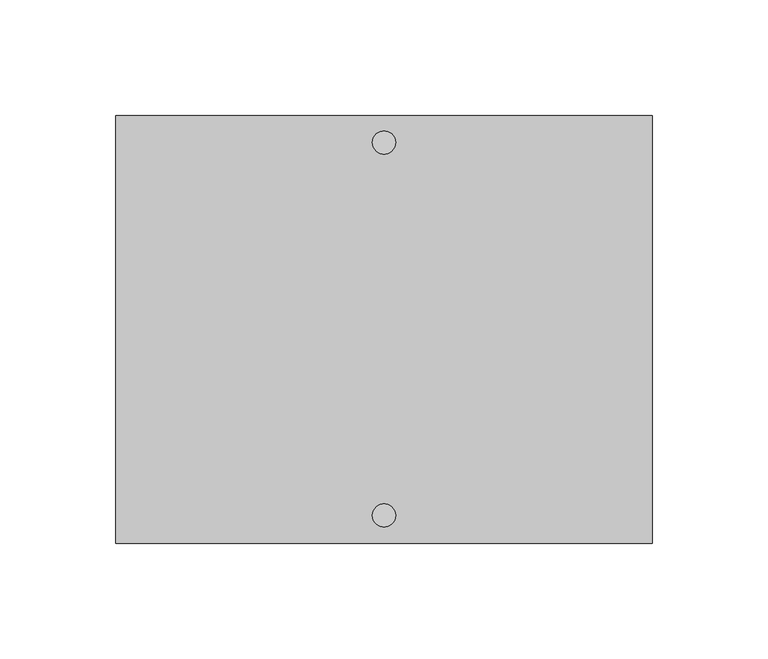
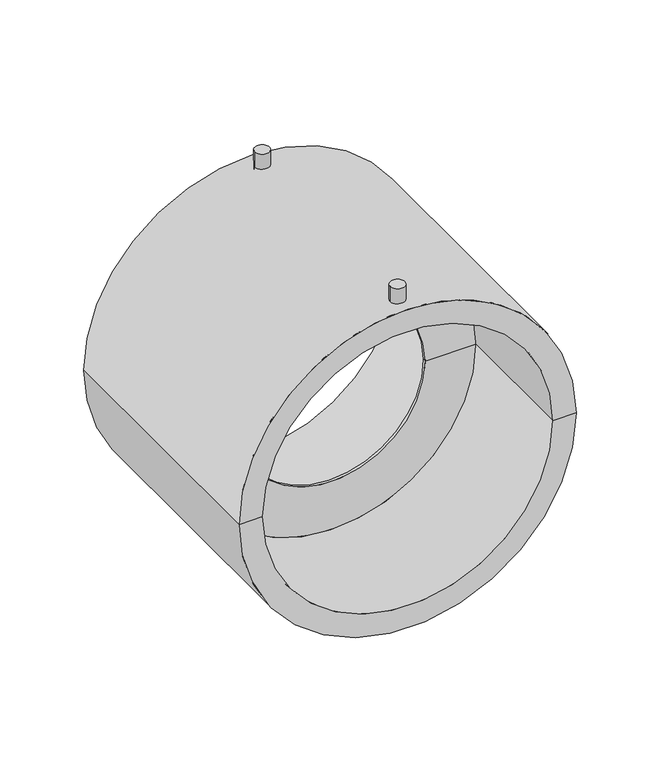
"""IFC4 building model written with IfcOpenShell, lengths in millimetres: pipe fitting geometry, NIRON RED electrico manguito : Estándar."""

from ifc_helpers import new_model, si_unit, point, frame, frame_2d, origin, place, context, project, spatial, polyline, circle_curve, trimmed, segment, composite_curve, outline, extrude, source, transform, mapped, element, save
from ifc_brep_helpers import plane_surface, cylinder_surface, revolved_surface, advanced_brep


def pipe_fitting_334d0e9d(model_context):
    return source(origin(), model_context, "Body", "SolidModel", [
        advanced_brep(
        [(116.0, 185.0, 0.0), (-116.0, 185.0, 0.0), (-100.0, 185.0, 0.0), (100.0, 185.0, 0.0), (116.0, 0.0, 0.0), (-116.0, 0.0, 0.0), (100.0, 0.0, 0.0), (-100.0, 0.0, 0.0), (100.0, 91.5, 0.0), (-100.0, 91.5, 0.0), (65.0, 91.5, 0.0), (-65.0, 91.5, 0.0), (65.0, 93.5, 0.0), (-65.0, 93.5, 0.0), (100.0, 93.5, 0.0), (-100.0, 93.5, 0.0)],
        [
            (0, 1, circle_curve(frame((0.0, 185.0, 0.0), z_axis=(0.0, 1.0, 0.0), x_axis=(-1.0, 0.0, 0.0)), 116.0)),
            (1, 2),
            (2, 3, circle_curve(frame((0.0, 185.0, 0.0), z_axis=(0.0, -1.0, 0.0), x_axis=(-1.0, 0.0, 0.0)), 100.0)),
            (3, 0),
            (1, 0, circle_curve(frame((0.0, 185.0, 0.0), z_axis=(0.0, 1.0, 0.0), x_axis=(-1.0, 0.0, 0.0)), 116.0)),
            (3, 2, circle_curve(frame((0.0, 185.0, 0.0), z_axis=(0.0, -1.0, 0.0), x_axis=(-1.0, 0.0, 0.0)), 100.0)),
            (4, 5, circle_curve(frame((0.0, 0.0, 0.0), z_axis=(0.0, 1.0, 0.0), x_axis=(-1.0, 0.0, 0.0)), 116.0)),
            (5, 1),
            (0, 4),
            (5, 4, circle_curve(frame((0.0, 0.0, 0.0), z_axis=(0.0, 1.0, 0.0), x_axis=(-1.0, 0.0, 0.0)), 116.0)),
            (6, 7, circle_curve(frame((0.0, 0.0, 0.0), z_axis=(0.0, 1.0, 0.0), x_axis=(-1.0, 0.0, 0.0)), 100.0)),
            (7, 5),
            (4, 6),
            (7, 6, circle_curve(frame((0.0, 0.0, 0.0), z_axis=(0.0, 1.0, 0.0), x_axis=(-1.0, 0.0, 0.0)), 100.0)),
            (8, 9, circle_curve(frame((0.0, 91.5, 0.0), z_axis=(0.0, 1.0, 0.0), x_axis=(-1.0, 0.0, 0.0)), 100.0)),
            (9, 7),
            (6, 8),
            (9, 8, circle_curve(frame((0.0, 91.5, 0.0), z_axis=(0.0, 1.0, 0.0), x_axis=(-1.0, 0.0, 0.0)), 100.0)),
            (10, 11, circle_curve(frame((0.0, 91.5, 0.0), z_axis=(0.0, 1.0, 0.0), x_axis=(-1.0, 0.0, 0.0)), 65.0)),
            (11, 9),
            (8, 10),
            (11, 10, circle_curve(frame((0.0, 91.5, 0.0), z_axis=(0.0, 1.0, 0.0), x_axis=(-1.0, 0.0, 0.0)), 65.0)),
            (12, 13, circle_curve(frame((0.0, 93.5, 0.0), z_axis=(0.0, 1.0, 0.0), x_axis=(-1.0, 0.0, 0.0)), 65.0)),
            (13, 11),
            (10, 12),
            (13, 12, circle_curve(frame((0.0, 93.5, 0.0), z_axis=(0.0, 1.0, 0.0), x_axis=(-1.0, 0.0, 0.0)), 65.0)),
            (14, 15, circle_curve(frame((0.0, 93.5, 0.0), z_axis=(0.0, 1.0, 0.0), x_axis=(-1.0, 0.0, 0.0)), 100.0)),
            (15, 13),
            (12, 14),
            (15, 14, circle_curve(frame((0.0, 93.5, 0.0), z_axis=(0.0, 1.0, 0.0), x_axis=(-1.0, 0.0, 0.0)), 100.0)),
            (2, 15),
            (14, 3),
        ],
        [
            plane_surface(frame((0.0, 185.0, 0.0), z_axis=(0.0, 1.0, 0.0), x_axis=(-1.0, 0.0, 0.0))),
            cylinder_surface(frame((0.0, 210.0, 0.0), z_axis=(0.0, -1.0, 0.0), x_axis=(-1.0, 0.0, 0.0)), 116.0),
            plane_surface(frame((0.0, 0.0, 0.0), z_axis=(0.0, -1.0, 0.0), x_axis=(-1.0, 0.0, 0.0))),
            revolved_surface(polyline([(-100.0, 0.0, 0.0), (-100.0, 91.5, 0.0)]), (0.0, 210.0, 0.0), (0.0, -1.0, 0.0)),
            plane_surface(frame((0.0, 91.5, 0.0), z_axis=(0.0, -1.0, 0.0), x_axis=(-1.0, 0.0, 0.0))),
            revolved_surface(polyline([(-65.0, 91.5, 0.0), (-65.0, 93.5, 0.0)]), (0.0, 210.0, 0.0), (0.0, -1.0, 0.0)),
            plane_surface(frame((0.0, 93.5, 0.0), z_axis=(0.0, 1.0, 0.0), x_axis=(-1.0, 0.0, 0.0))),
            revolved_surface(polyline([(-100.0, 93.5, 0.0), (-100.0, 185.0, 0.0)]), (0.0, 210.0, 0.0), (0.0, -1.0, 0.0)),
        ],
        [
            (0, [[1, 2, 3, 4]]),
            (0, [[5, -4, 6, -2]]),
            (1, [[7, 8, -1, 9]]),
            (1, [[10, -9, -5, -8]]),
            (2, [[11, 12, -7, 13]]),
            (2, [[14, -13, -10, -12]]),
            (3, [[15, 16, -11, 17]]),
            (3, [[18, -17, -14, -16]]),
            (4, [[19, 20, -15, 21]]),
            (4, [[22, -21, -18, -20]]),
            (5, [[23, 24, -19, 25]]),
            (5, [[26, -25, -22, -24]]),
            (6, [[27, 28, -23, 29]]),
            (6, [[30, -29, -26, -28]]),
            (7, [[-3, 31, -27, 32]]),
            (7, [[-6, -32, -30, -31]]),
        ],
    ),
        extrude(outline(composite_curve([segment(trimmed(circle_curve(frame_2d((0.0, 12.0)), 5.0), [point((-5.0, 12.0))], [point((5.0, 12.0))], False, "CARTESIAN"), True, "CONTINUOUS"), segment(trimmed(circle_curve(frame_2d((0.0, 12.0)), 5.0), [point((5.0, 12.0))], [point((-5.0, 12.0))], False, "CARTESIAN"), True, "CONTINUOUS")], self_intersect=False)), frame((0.0, 0.0, 113.0), z_axis=(0.0, 0.0, 1.0), x_axis=(1.0, 0.0, 0.0)), (0.0, 0.0, 1.0), 14.0),
        extrude(outline(composite_curve([segment(trimmed(circle_curve(frame_2d((0.0, 173.3742842)), 5.0), [point((-5.0, 173.3742842))], [point((5.0, 173.3742842))], False, "CARTESIAN"), True, "CONTINUOUS"), segment(trimmed(circle_curve(frame_2d((0.0, 173.3742842)), 5.0), [point((5.0, 173.3742842))], [point((-5.0, 173.3742842))], False, "CARTESIAN"), True, "CONTINUOUS")], self_intersect=False)), frame((0.0, 0.0, 113.0), z_axis=(0.0, 0.0, 1.0), x_axis=(1.0, 0.0, 0.0)), (0.0, 0.0, 1.0), 14.0),
    ])


if __name__ == "__main__":
    model = new_model("IFC4")
    model_context = context("Model", 3, world=origin())
    ifc_project = project(units=[si_unit("LENGTHUNIT", "METRE", prefix="MILLI")], contexts=[model_context])
    site = spatial("IfcSite", under=ifc_project)
    building = spatial("IfcBuilding", under=site)
    placement = place(None, origin())
    pipe_fitting_shape = pipe_fitting_334d0e9d(model_context)
    element("IfcPipeFitting", 1, ObjectType="NIRON RED electrico manguito : Estándar", at=placement, inside=building, context=model_context, shape_type="MappedRepresentation", body=[
        mapped(pipe_fitting_shape, transform((0.0, 0.0, 0.0), x_axis=(1.0, 0.0, 0.0), y_axis=(0.0, 1.0, 0.0), z_axis=(0.0, 0.0, 1.0))),
    ])
    save(model, "model.ifc")
